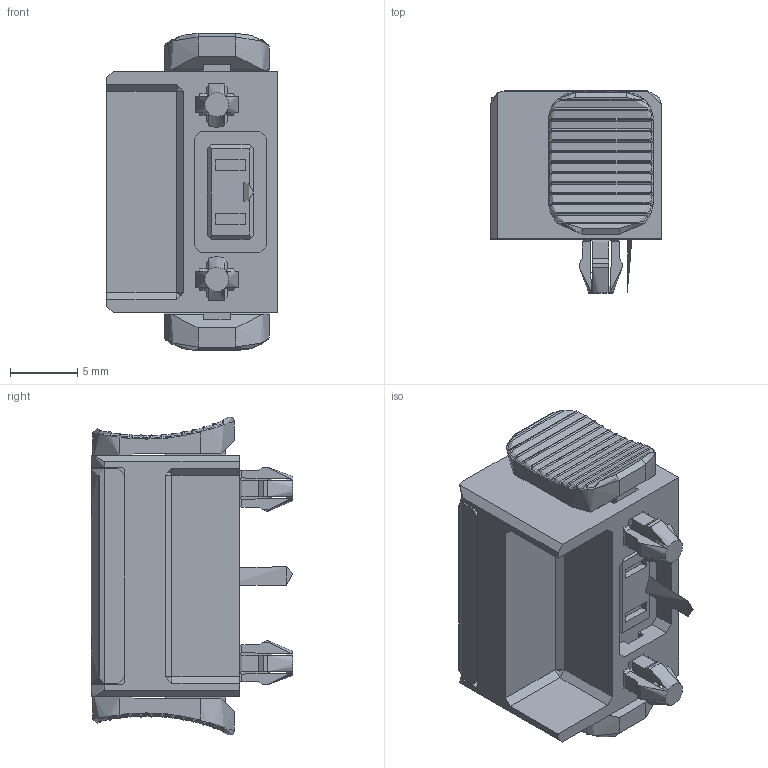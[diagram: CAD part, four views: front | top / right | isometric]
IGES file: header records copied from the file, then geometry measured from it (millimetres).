
Global section: file name: 21.02.212.113.1; native system: unknown; preprocessor: unknown; author: unknown; organization: unknown; date: 20221116.092344; units: millimetre
Bounding box: 12.7 x 15.02 x 23.62 mm (x, y, z)
Volume: 2200.4 mm3; surface area: 1992.4 mm2
Topology: 1 solids, 1 shells, 807 faces, 2227 edges, 1408 vertices
Faces by surface type: bspline 807
